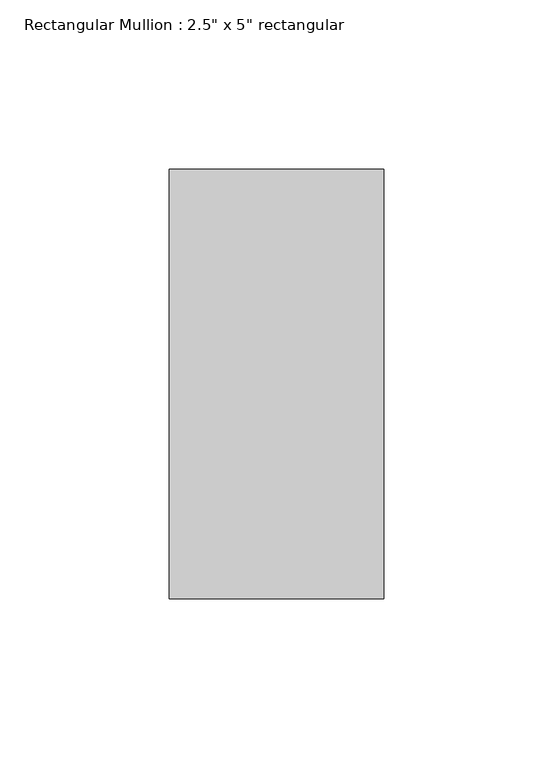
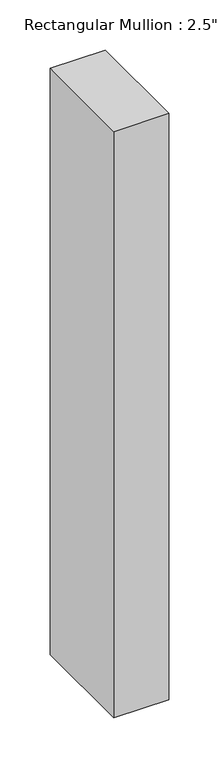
"""IFC4 building model written with IfcOpenShell, lengths in millimetres: member geometry."""

import ifcopenshell
import ifcopenshell.guid

model = None  # the IFC model being written
_history = None  # IfcOwnerHistory: only IFC2X3 demands one
_inside = {}  # id of a spatial element -> (the spatial element, [elements in it])
_under = {}  # id of a project, library or spatial element -> (it, [spatial elements below it])
_declared = {}  # id of a project -> (the project, [libraries it declares])
_typed = {}  # id of a type object -> (the type object, [elements of that type])
_made_of = {}  # id of a material, layer set ... -> (it, [elements and type objects made of it])


def new_model(schema):
    """Start an empty IFC model of exactly this schema.

    Asked for "IFC4X3", IfcOpenShell would pick the latest addendum, in which some entities
    have other attributes; the version numbers below select the first issue.
    IFC2X3 requires an IfcOwnerHistory on every rooted entity: one is made here for all.
    """
    global model, _history
    if schema == "IFC4X3":
        model = ifcopenshell.file(schema_version=(4, 3, 0, 0))
    else:
        model = ifcopenshell.file(schema=schema)
    _inside.clear()
    _under.clear()
    _declared.clear()
    _typed.clear()
    _made_of.clear()
    _history = None
    if model.schema == "IFC2X3":
        org = make("IfcOrganization", Name="unknown")
        user = make(
            "IfcPersonAndOrganization",
            ThePerson=make("IfcPerson", FamilyName="unknown"),
            TheOrganization=org,
        )
        app = make(
            "IfcApplication",
            ApplicationDeveloper=org,
            Version="unknown",
            ApplicationFullName="unknown",
            ApplicationIdentifier="unknown",
        )
        _history = make(
            "IfcOwnerHistory",
            OwningUser=user,
            OwningApplication=app,
            ChangeAction="ADDED",
            CreationDate=0,
        )
    return model


def make(cls, **values):
    """One entity of the class cls with the attributes given. An attribute that is None is left unset."""
    return model.create_entity(
        cls, **{name: value for name, value in values.items() if value is not None}
    )


def rooted(cls, **values):
    """An entity with a GlobalId (a new one), such as an element, a storey or a relation."""
    return make(cls, GlobalId=ifcopenshell.guid.new(), OwnerHistory=_history, **values)


def si_unit(unit_type, name, prefix=None):
    """IfcSIUnit, for example si_unit("LENGTHUNIT", "METRE", prefix="MILLI")."""
    return make("IfcSIUnit", UnitType=unit_type, Prefix=prefix, Name=name)


def assignment(units):
    """IfcUnitAssignment: the units of a project."""
    return None if units is None else make("IfcUnitAssignment", Units=units)


def point(xyz):
    """IfcCartesianPoint."""
    return None if xyz is None else make("IfcCartesianPoint", Coordinates=xyz)


def direction(xyz):
    """IfcDirection."""
    return None if xyz is None else make("IfcDirection", DirectionRatios=xyz)


def frame(location, z_axis=None, x_axis=None):
    """IfcAxis2Placement3D, a coordinate frame: its origin and axes. An axis left out is left unset."""
    return make(
        "IfcAxis2Placement3D",
        Location=point(location),
        Axis=direction(z_axis),
        RefDirection=direction(x_axis),
    )


def origin():
    """The frame at (0, 0, 0) with its axes left unset."""
    return frame((0.0, 0.0, 0.0))


def place(relative_to, where):
    """IfcLocalPlacement: puts the frame where relative to a parent placement (None: the world)."""
    return make(
        "IfcLocalPlacement", PlacementRelTo=relative_to, RelativePlacement=where
    )


def context(
    kind, dimensions, precision=None, world=None, true_north=None, identifier=None
):
    """IfcGeometricRepresentationContext, for example the 3D "Model" context."""
    return make(
        "IfcGeometricRepresentationContext",
        ContextIdentifier=identifier,
        ContextType=kind,
        CoordinateSpaceDimension=dimensions,
        Precision=precision,
        WorldCoordinateSystem=world,
        TrueNorth=true_north,
    )


def project(units=None, contexts=None):
    """IfcProject with its units and contexts."""
    return rooted(
        "IfcProject",
        Name="project",
        RepresentationContexts=contexts,
        UnitsInContext=assignment(units),
    )


def spatial(cls, under=None, at=None, **own):
    """A site, building, storey or space (cls), placed at a placement, below another one or the project."""
    s = rooted(cls, ObjectPlacement=at, **own)
    if under is not None:
        _under.setdefault(under.id(), (under, []))[1].append(s)
    return s


def polyline(points):
    """IfcPolyline through the points."""
    return make("IfcPolyline", Points=[point(p) for p in points])


def outline(outer, holes=None, kind="AREA"):
    """IfcArbitraryClosedProfileDef: a profile drawn as a closed curve; with holes, ...WithVoids."""
    if holes is None:
        return make("IfcArbitraryClosedProfileDef", ProfileType=kind, OuterCurve=outer)
    return make(
        "IfcArbitraryProfileDefWithVoids",
        ProfileType=kind,
        OuterCurve=outer,
        InnerCurves=holes,
    )


def extrude(swept, where, along, depth):
    """IfcExtrudedAreaSolid: the profile swept, set in the frame where, extruded along a direction by depth."""
    return make(
        "IfcExtrudedAreaSolid",
        SweptArea=swept,
        Position=where,
        ExtrudedDirection=direction(along),
        Depth=depth,
    )


def shape(context_of_items, identifier, shape_type, items):
    """IfcShapeRepresentation: the items that make up one representation, for example the "Body"."""
    return make(
        "IfcShapeRepresentation",
        ContextOfItems=context_of_items,
        RepresentationIdentifier=identifier,
        RepresentationType=shape_type,
        Items=items,
    )


def source(mapping_origin, context_of_items, identifier, shape_type, items):
    """IfcRepresentationMap: a shape defined once, which mapped items show again and again."""
    return make(
        "IfcRepresentationMap",
        MappingOrigin=mapping_origin,
        MappedRepresentation=shape(context_of_items, identifier, shape_type, items),
    )


def transform(
    local_origin,
    x_axis=None,
    y_axis=None,
    z_axis=None,
    scale=None,
    scale2=None,
    scale3=None,
    uniform=True,
):
    """IfcCartesianTransformationOperator3D, or its non-uniform kind. x_axis, y_axis, z_axis: its Axis1, 2, 3."""
    if uniform:
        return make(
            "IfcCartesianTransformationOperator3D",
            Axis1=direction(x_axis),
            Axis2=direction(y_axis),
            LocalOrigin=point(local_origin),
            Scale=scale,
            Axis3=direction(z_axis),
        )
    return make(
        "IfcCartesianTransformationOperator3DnonUniform",
        Axis1=direction(x_axis),
        Axis2=direction(y_axis),
        LocalOrigin=point(local_origin),
        Scale=scale,
        Axis3=direction(z_axis),
        Scale2=scale2,
        Scale3=scale3,
    )


def mapped(mapping_source, mapping_target):
    """IfcMappedItem: shows the shape of a source again, moved by a transform."""
    return make(
        "IfcMappedItem", MappingSource=mapping_source, MappingTarget=mapping_target
    )


def made_of(thing, what):
    """Note that an element or type object is made of a material, layer set ...; save() writes the relation."""
    if what is not None:
        _made_of.setdefault(what.id(), (what, []))[1].append(thing)
    return thing


def element(
    cls,
    number,
    at=None,
    inside=None,
    cuts=None,
    type_object=None,
    material=None,
    context=None,
    identifier="Body",
    shape_type=None,
    held_by="IfcProductDefinitionShape",
    body=None,
    shapes=None,
    **own,
):
    """One element of the class cls, such as IfcWall. Its Tag is "e" and its number.

    at: its placement. inside: the storey or other place that contains it. cuts: it is an
    opening in that element (IfcRelVoidsElement). A single representation is given by context,
    identifier, shape_type and body (its items); several are given by shapes. held_by: the class
    of the entity that holds the representations. save() writes the other relations.
    """
    e = rooted(cls, Tag="e%d" % number, ObjectPlacement=at, **own)
    if body is not None:
        shapes = [shape(context, identifier, shape_type, body)]
    if shapes is not None:
        e.Representation = make(held_by, Representations=shapes)
    if inside is not None:
        _inside.setdefault(inside.id(), (inside, []))[1].append(e)
    if cuts is not None:
        rooted(
            "IfcRelVoidsElement", RelatingBuildingElement=cuts, RelatedOpeningElement=e
        )
    if type_object is not None:
        _typed.setdefault(type_object.id(), (type_object, []))[1].append(e)
    return made_of(e, material)


def aggregate(whole, parts):
    """IfcRelAggregates: a whole, such as a stair, and the parts it consists of."""
    return rooted("IfcRelAggregates", RelatingObject=whole, RelatedObjects=parts)


def save(model, path):
    """Write the relations noted so far, then the file.

    IfcRelAggregates (storeys below a building ...), IfcRelContainedInSpatialStructure (elements
    in a storey), IfcRelDefinesByType, IfcRelAssociatesMaterial and IfcRelDeclares: one each for
    every whole, place, type object, material and project.
    """
    for whole, parts in _under.values():
        aggregate(whole, parts)
    for where, things in _inside.values():
        rooted(
            "IfcRelContainedInSpatialStructure",
            RelatedElements=things,
            RelatingStructure=where,
        )
    for kind, things in _typed.values():
        rooted("IfcRelDefinesByType", RelatedObjects=things, RelatingType=kind)
    for what, things in _made_of.values():
        rooted("IfcRelAssociatesMaterial", RelatedObjects=things, RelatingMaterial=what)
    for by, libraries in _declared.values():
        rooted("IfcRelDeclares", RelatingContext=by, RelatedDefinitions=libraries)
    model.write(path)


def member_7e386bcc(model_context):
    return source(origin(), model_context, "Body", "SweptSolid", [
        extrude(outline(polyline([(31.75, 63.5), (31.75, -63.5), (-31.75, -63.5), (-31.75, 63.5), (31.75, 63.5)])), frame((0.0, 0.0, -714.375), z_axis=(0.0, 0.0, 1.0), x_axis=(1.0, 0.0, 0.0)), (0.0, 0.0, 1.0), 714.375),
    ])


if __name__ == "__main__":
    model = new_model("IFC4")
    model_context = context("Model", 3, world=origin())
    ifc_project = project(units=[si_unit("LENGTHUNIT", "METRE", prefix="MILLI")], contexts=[model_context])
    site = spatial("IfcSite", under=ifc_project)
    building = spatial("IfcBuilding", under=site)
    placement = place(None, origin())
    member_shape = member_7e386bcc(model_context)
    element("IfcMember", 1, ObjectType="Rectangular Mullion : 2.5\" x 5\" rectangular", at=placement, inside=building, context=model_context, shape_type="MappedRepresentation", body=[
        mapped(member_shape, transform((0.0, 0.0, 0.0), x_axis=(1.0, 0.0, 0.0), y_axis=(0.0, 1.0, 0.0), z_axis=(0.0, 0.0, 1.0))),
    ])
    save(model, "model.ifc")
